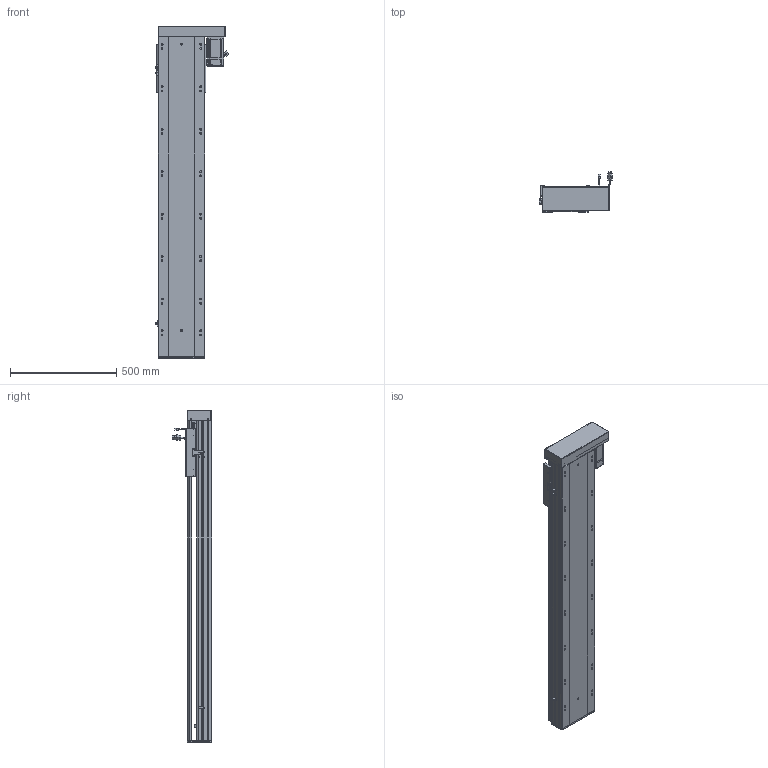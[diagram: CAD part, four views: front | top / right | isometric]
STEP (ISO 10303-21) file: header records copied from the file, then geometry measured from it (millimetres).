
FILE_DESCRIPTION (( 'STEP AP203' ), '1' );
FILE_NAME ('RY220-L2525-800-RK-邧嶺.SLDASM_1150.step', '2022-08-06T08:52:55', ( '' ), ( '' ), 'SwSTEP 2.0', 'SolidWorks 2016', '' );
FILE_SCHEMA (( 'CONFIG_CONTROL_DESIGN' ));
Length unit declared in the file: millimetre
Products named in the file (12): RY220綴裔啣; RY220-俋离672覜茼んえ; 滅袉蝶18-10; 怢湛750W_ECMA-CX0807ES; 覜茼ん672; RY220半封闭25-32螺母铝滑块; RY220左右折电机安装板; RY220酘衵殏萇儂欶; RY220-800-蛌殏奻裔啣_1150; RY220-L2525-800-RK-邧嶺.SLDASM_1150; RY220蛌殏菁釱-800-邧嶺_1150; 滅袉蝶18-15
Assembly tree (15 placements, depth 2):
  RY220-L2525-800-RK-邧嶺.SLDASM_1150
    RY220蛌殏菁釱-800-邧嶺_1150
    RY220-800-蛌殏奻裔啣_1150
    怢湛750W_ECMA-CX0807ES
    滅袉蝶18-10  x2
    RY220-俋离672覜茼んえ
    覜茼ん672  x3
    RY220綴裔啣
    RY220半封闭25-32螺母铝滑块
    滅袉蝶18-15  x2
    RY220左右折电机安装板
    RY220酘衵殏萇儂欶
Bounding box: 347.44 x 187.27 x 1564 mm (x, y, z)
Volume: 12708131.3 mm3; surface area: 3757626.5 mm2
Topology: 16 solids, 16 shells, 2205 faces, 6084 edges, 3841 vertices
Faces by surface type: cylinder 997, plane 904, cone 234, bspline 44, sphere 16, torus 10
Entity records: 72739 total; most frequent: CARTESIAN_POINT 21039, ORIENTED_EDGE 10728, DIRECTION 10108, EDGE_CURVE 5364, AXIS2_PLACEMENT_3D 3555, VERTEX_POINT 3497, LINE 2998, VECTOR 2998
